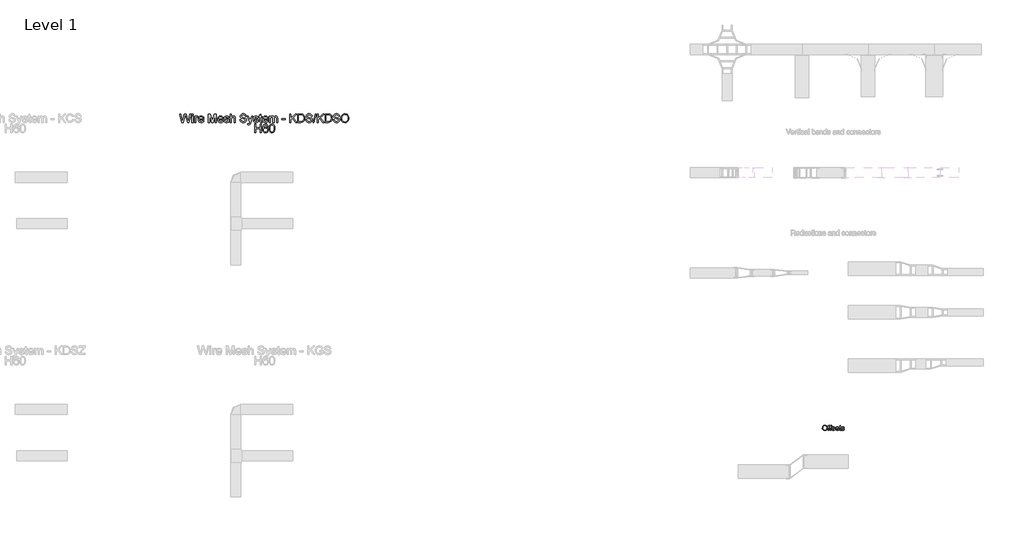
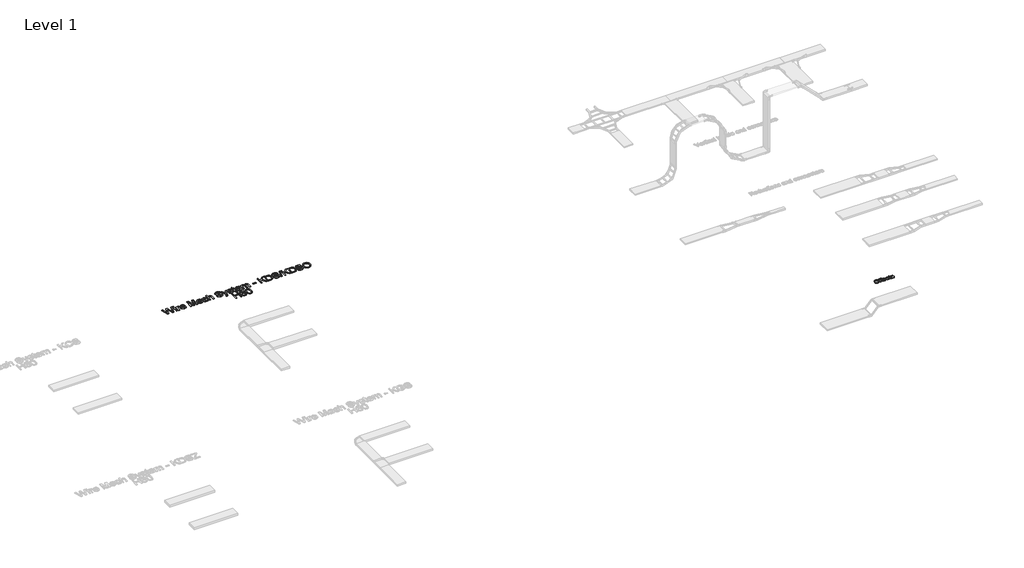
# One storey, part 56 of 106: 2 proxies.
"""IFC4 building model written with IfcOpenShell, lengths in millimetres."""

from ifc_helpers import new_model, si_unit, origin, origin_with_axes, place, context, project, spatial, polyline, outline, extrude, element, save

model = new_model("IFC4")

# Units and contexts
model_context = context("Model", 3, world=origin())
ifc_project = project(units=[si_unit("LENGTHUNIT", "METRE", prefix="MILLI")], contexts=[model_context])

# Site, building, storey
site = spatial("IfcSite", under=ifc_project)
building = spatial("IfcBuilding", under=site)
storey = spatial("IfcBuildingStorey", under=building, Name="Level 1", Elevation=0.0)

# Proxies
placement = place(None, origin())
element("IfcBuildingElementProxy", 1, Name="150mm Arial 2", ObjectType="150mm Arial 2", at=placement, inside=storey, context=model_context, shape_type="SweptSolid", body=[
    extrude(outline(polyline([(29692.661661, 48621.2033046), (29697.6832503, 48654.5242163), (29703.9602368, 48668.1427479), (29712.748018, 48679.7333301), (29735.7498397, 48695.5982411), (29764.5825911, 48700.8865448), (29784.3470513, 48698.4033413), (29802.0697664, 48690.9537309), (29816.7850462, 48679.0619454), (29827.5272005, 48663.2522167), (29834.0938941, 48644.2878998), (29836.282792, 48622.93235), (29833.978931, 48601.2916916), (29827.067348, 48582.0606603), (29815.9297206, 48566.2233404), (29800.9477263, 48554.7638163), (29783.3767625, 48547.8108466), (29764.4722265, 48545.49319), (29744.4042637, 48548.0545684), (29726.580381, 48555.7387036), (29711.9018894, 48567.8512183), (29701.2700997, 48583.6977352), (29694.8137707, 48601.9308866), (29692.661661, 48621.2033046)]), holes=[polyline([(29711.4972192, 48621.0193636), (29715.2634111, 48597.4473248), (29726.5619869, 48579.4854864), (29743.5443395, 48568.1179327), (29764.3618619, 48564.3287482), (29785.482887, 48568.1547209), (29802.4928307, 48579.6326392), (29813.708633, 48598.1463006), (29817.4472338, 48623.0795028), (29815.8469471, 48639.7537542), (29811.0460871, 48654.1655314), (29803.1688139, 48665.9515508), (29792.3392876, 48674.748529), (29779.2748783, 48680.2253722), (29764.6929557, 48682.0509866), (29744.4318548, 48678.533115), (29727.2057804, 48667.9795003), (29715.4243595, 48649.203723), (29711.4972192, 48621.0193636)])]), origin_with_axes(), (0.0, 0.0, 1.0), 15.0),
    extrude(outline(polyline([(29925.7516932, 48547.8476348), (29925.7516932, 48639.6709808), (29909.2705798, 48639.6709808), (29909.2705798, 48658.5065389), (29925.7516932, 48658.5065389), (29925.7516932, 48669.6533634), (29927.738256, 48685.3619246), (29937.3767642, 48696.5823254), (29956.3594752, 48700.8865448), (29973.5395644, 48698.8264056), (29970.7804494, 48681.1680698), (29959.9279305, 48682.0509866), (29948.0637362, 48678.9239897), (29944.5872513, 48667.2621304), (29944.5872513, 48658.5065389), (29965.7772543, 48658.5065389), (29965.7772543, 48639.6709808), (29944.5872513, 48639.6709808), (29944.5872513, 48547.8476348), (29925.7516932, 48547.8476348)])), origin_with_axes(), (0.0, 0.0, 1.0), 15.0),
    extrude(outline(polyline([(29864.5361292, 48547.8476348), (29864.5361292, 48639.6709808), (29848.0550158, 48639.6709808), (29848.0550158, 48658.5065389), (29864.5361292, 48658.5065389), (29864.5361292, 48669.6533634), (29866.522692, 48685.3619246), (29876.1612002, 48696.5823254), (29895.1439112, 48700.8865448), (29912.3240004, 48698.8264056), (29909.5648854, 48681.1680698), (29898.7123665, 48682.0509866), (29886.8481722, 48678.9239897), (29883.3716873, 48667.2621304), (29883.3716873, 48658.5065389), (29904.5616903, 48658.5065389), (29904.5616903, 48639.6709808), (29883.3716873, 48639.6709808), (29883.3716873, 48547.8476348), (29864.5361292, 48547.8476348)])), origin_with_axes(), (0.0, 0.0, 1.0), 15.0),
    extrude(outline(polyline([(29975.1950333, 48580.8098615), (29994.0305915, 48583.1643063), (29997.0012386, 48575.1076906), (30002.7493948, 48569.1847905), (30022.7253871, 48564.3287482), (30041.9288273, 48568.7801203), (30048.1828212, 48579.227969), (30046.6101257, 48584.028829), (30041.8920391, 48587.6892549), (30022.5046579, 48593.060332), (29994.1409561, 48602.275776), (29981.761727, 48613.0363243), (29977.5494781, 48628.2298507), (29980.9339925, 48642.2645488), (29990.1678305, 48652.988309), (30002.1423895, 48658.5617212), (30018.3475914, 48660.8609837), (30041.2666397, 48657.1637696), (30055.8347667, 48647.1573794), (30062.3094898, 48630.2532017), (30043.4739316, 48627.8987569), (30036.3922032, 48638.2914233), (30019.8191194, 48642.0254255), (30001.7929016, 48638.4569702), (29996.3850363, 48630.1428371), (29998.6291164, 48624.6613954), (30005.6556625, 48620.5043288), (30021.8792585, 48616.4944151), (30049.5255905, 48607.628459), (30062.3646721, 48597.5852805), (30067.0183793, 48581.2145317), (30061.5553317, 48563.188314), (30045.7915882, 48550.1101091), (30022.4678697, 48545.49319), (30003.4759617, 48547.7188761), (29989.6160076, 48554.3959343), (29980.3637754, 48565.4507882), (29975.1950333, 48580.8098615)])), origin_with_axes(), (0.0, 0.0, 1.0), 15.0),
    extrude(outline(polyline([(30165.6843304, 48580.8098615), (30184.1520066, 48578.4554168), (30177.497941, 48564.5402803), (30166.8799469, 48554.1384169), (30152.5371476, 48547.6544967), (30134.7086664, 48545.49319), (30112.6081556, 48549.2225937), (30095.6028104, 48560.4108049), (30084.7594886, 48578.3312566), (30081.145048, 48602.2573819), (30084.7962768, 48626.988249), (30095.7499632, 48645.4835163), (30112.5253821, 48657.0166168), (30133.6418087, 48660.8609837), (30154.1006461, 48657.0258139), (30170.4484023, 48645.5203045), (30181.1675639, 48627.0618254), (30184.7406178, 48602.3677465), (30184.6302532, 48597.2909749), (30099.9806061, 48597.2909749), (30103.2409603, 48583.1918975), (30110.8147309, 48572.8268223), (30121.7454246, 48566.4532667), (30135.0765484, 48564.3287482), (30153.5442246, 48568.2650855), (30165.6843304, 48580.8098615)]), holes=[polyline([(30099.9806061, 48616.1265331), (30165.9050596, 48616.1265331), (30163.3574768, 48626.0777411), (30158.3634787, 48633.1962577), (30147.3822012, 48639.8181336), (30133.5682323, 48642.0254255), (30120.8717049, 48640.2641905), (30110.3732725, 48634.9804853), (30103.0754134, 48626.7445272), (30099.9806061, 48616.1265331)])]), origin_with_axes(), (0.0, 0.0, 1.0), 15.0),
    extrude(outline(polyline([(30243.601737, 48563.556196), (30245.9561818, 48547.2958118), (30231.8663014, 48545.49319), (30216.0841638, 48548.620187), (30208.2114891, 48556.8239555), (30205.9306207, 48578.1978994), (30205.9306207, 48639.6709808), (30191.8039521, 48639.6709808), (30191.8039521, 48658.5065389), (30205.9306207, 48658.5065389), (30205.9306207, 48685.3987128), (30224.7661789, 48696.4719608), (30224.7661789, 48658.5065389), (30243.601737, 48658.5065389), (30243.601737, 48639.6709808), (30224.7661789, 48639.6709808), (30224.7661789, 48578.7497224), (30225.7594603, 48569.0376377), (30228.9784277, 48565.597941), (30235.3979685, 48564.3287482), (30243.601737, 48563.556196)])), origin_with_axes(), (0.0, 0.0, 1.0), 15.0),
    extrude(outline(polyline([(30255.3739609, 48580.8098615), (30274.209519, 48583.1643063), (30277.1801661, 48575.1076906), (30282.9283223, 48569.1847905), (30302.9043146, 48564.3287482), (30322.1077548, 48568.7801203), (30328.3617487, 48579.227969), (30326.7890532, 48584.028829), (30322.0709666, 48587.6892549), (30302.6835854, 48593.060332), (30274.3198836, 48602.275776), (30261.9406545, 48613.0363243), (30257.7284056, 48628.2298507), (30261.11292, 48642.2645488), (30270.3467581, 48652.988309), (30282.321317, 48658.5617212), (30298.5265189, 48660.8609837), (30321.4455672, 48657.1637696), (30336.0136942, 48647.1573794), (30342.4884173, 48630.2532017), (30323.6528592, 48627.8987569), (30316.5711308, 48638.2914233), (30299.9980469, 48642.0254255), (30281.9718291, 48638.4569702), (30276.5639638, 48630.1428371), (30278.808044, 48624.6613954), (30285.8345901, 48620.5043288), (30302.0581861, 48616.4944151), (30329.704518, 48607.628459), (30342.5435996, 48597.5852805), (30347.1973069, 48581.2145317), (30341.7342592, 48563.188314), (30325.9705157, 48550.1101091), (30302.6467972, 48545.49319), (30283.6548892, 48547.7188761), (30269.7949351, 48554.3959343), (30260.5427029, 48565.4507882), (30255.3739609, 48580.8098615)])), origin_with_axes(), (0.0, 0.0, 1.0), 15.0),
])
element("IfcBuildingElementProxy", 2, Name="250mm Arial 3", ObjectType="250mm Arial 3", at=placement, inside=storey, context=model_context, shape_type="SweptSolid", body=[
    extrude(outline(polyline([(10674.6936773, 57703.1379564), (10606.2063125, 57954.2787318), (10638.5799281, 57954.2787318), (10678.3111836, 57789.2223433), (10690.5739168, 57738.2706869), (10703.6950412, 57783.3362313), (10753.4817379, 57954.2787318), (10800.1414376, 57954.2787318), (10836.3165005, 57830.3638131), (10851.8135296, 57784.3785637), (10863.2331998, 57738.2706869), (10875.128051, 57787.7508153), (10915.2271885, 57954.2787318), (10947.600804, 57954.2787318), (10879.0521256, 57703.1379564), (10845.5135504, 57703.1379564), (10785.3035305, 57896.8891405), (10776.9035583, 57923.9284672), (10767.4612537, 57891.3709106), (10712.5855228, 57703.1379564), (10674.6936773, 57703.1379564)])), origin_with_axes(), (0.0, 0.0, 1.0), 15.0),
    extrude(outline(polyline([(10975.0693264, 57922.8861348), (10975.0693264, 57954.2787318), (11006.4619233, 57954.2787318), (11006.4619233, 57922.8861348), (10975.0693264, 57922.8861348)])), origin_with_axes(), (0.0, 0.0, 1.0), 15.0),
    extrude(outline(polyline([(10975.0693264, 57703.1379564), (10975.0693264, 57887.5694633), (11006.4619233, 57887.5694633), (11006.4619233, 57703.1379564), (10975.0693264, 57703.1379564)])), origin_with_axes(), (0.0, 0.0, 1.0), 15.0),
    extrude(outline(polyline([(11053.5508187, 57703.1379564), (11053.5508187, 57887.5694633), (11081.019341, 57887.5694633), (11081.019341, 57860.284882), (11091.1667527, 57876.1038078), (11100.5170867, 57885.423485), (11120.1374598, 57891.4935379), (11135.7724446, 57889.0716481), (11151.652684, 57881.8059787), (11141.1680472, 57853.6630061), (11119.0951275, 57860.100941), (11109.7218008, 57858.5527709), (11101.3448212, 57853.9082608), (11090.0324498, 57836.7404343), (11084.9434156, 57800.0748621), (11084.9434156, 57703.1379564), (11053.5508187, 57703.1379564)])), origin_with_axes(), (0.0, 0.0, 1.0), 15.0),
    extrude(outline(polyline([(11300.3996374, 57758.075001), (11331.1790977, 57754.1509264), (11320.0889884, 57730.9590323), (11302.3923316, 57713.6225933), (11278.4876661, 57702.8160597), (11248.7735308, 57699.2138818), (11229.2949455, 57700.7678), (11211.939346, 57705.4295547), (11196.7067321, 57713.1991458), (11183.597104, 57724.0765733), (11173.0549855, 57737.759101), (11165.5249009, 57753.9439928), (11161.0068502, 57772.6312485), (11159.5008333, 57793.8208682), (11161.0221786, 57815.7290074), (11165.5862146, 57835.0389801), (11173.1929413, 57851.7507861), (11183.8423586, 57865.8644256), (11196.9174979, 57877.0771622), (11211.8013903, 57885.0862598), (11228.4940358, 57889.8917184), (11246.9954345, 57891.4935379), (11264.9009409, 57889.8955505), (11281.0934969, 57885.1015883), (11295.5731023, 57877.1116512), (11308.3397572, 57865.9257393), (11318.7611643, 57851.8427566), (11326.2050265, 57835.1616074), (11330.6713439, 57815.8822916), (11332.1601163, 57794.0048092), (11331.9761753, 57785.5435233), (11190.8934302, 57785.5435233), (11196.3273538, 57762.0450609), (11208.9503048, 57744.7699355), (11227.1681278, 57734.1473429), (11249.3866674, 57730.6064787), (11266.0946414, 57732.2466193), (11280.1661277, 57737.1670409), (11291.6011264, 57745.6743121), (11300.3996374, 57758.075001)]), holes=[polyline([(11190.8934302, 57816.9361202), (11300.7675194, 57816.9361202), (11296.5215481, 57833.5214669), (11288.1982179, 57845.3856612), (11269.8960887, 57856.4221211), (11246.8728071, 57860.100941), (11225.7119282, 57857.1655493), (11208.2145408, 57848.359374), (11196.0514423, 57834.632777), (11190.8934302, 57816.9361202)])]), origin_with_axes(), (0.0, 0.0, 1.0), 15.0),
    extrude(outline(polyline([(11465.5786533, 57703.1379564), (11465.5786533, 57954.2787318), (11519.5959929, 57954.2787318), (11570.9768449, 57777.2661784), (11581.3388544, 57740.2940379), (11592.5592553, 57780.3318617), (11643.0817159, 57954.2787318), (11697.0990556, 57954.2787318), (11697.0990556, 57703.1379564), (11665.7064586, 57703.1379564), (11665.7064586, 57922.8861348), (11602.6146965, 57703.1379564), (11560.0630124, 57703.1379564), (11496.9712502, 57922.8861348), (11496.9712502, 57703.1379564), (11465.5786533, 57703.1379564)])), origin_with_axes(), (0.0, 0.0, 1.0), 15.0),
    extrude(outline(polyline([(11877.2386059, 57758.075001), (11908.0180661, 57754.1509264), (11896.9279568, 57730.9590323), (11879.2313, 57713.6225933), (11855.3266345, 57702.8160597), (11825.6124992, 57699.2138818), (11806.133914, 57700.7678), (11788.7783144, 57705.4295547), (11773.5457006, 57713.1991458), (11760.4360724, 57724.0765733), (11749.893954, 57737.759101), (11742.3638694, 57753.9439928), (11737.8458186, 57772.6312485), (11736.3398017, 57793.8208682), (11737.861147, 57815.7290074), (11742.425183, 57835.0389801), (11750.0319097, 57851.7507861), (11760.6813271, 57865.8644256), (11773.7564663, 57877.0771622), (11788.6403587, 57885.0862598), (11805.3330042, 57889.8917184), (11823.8344029, 57891.4935379), (11841.7399094, 57889.8955505), (11857.9324653, 57885.1015883), (11872.4120707, 57877.1116512), (11885.1787256, 57865.9257393), (11895.6001327, 57851.8427566), (11903.043995, 57835.1616074), (11907.5103123, 57815.8822916), (11908.9990848, 57794.0048092), (11908.8151438, 57785.5435233), (11767.7323986, 57785.5435233), (11773.1663223, 57762.0450609), (11785.7892732, 57744.7699355), (11804.0070962, 57734.1473429), (11826.2256359, 57730.6064787), (11842.9336098, 57732.2466193), (11857.0050961, 57737.1670409), (11868.4400948, 57745.6743121), (11877.2386059, 57758.075001)]), holes=[polyline([(11767.7323986, 57816.9361202), (11877.6064879, 57816.9361202), (11873.3605165, 57833.5214669), (11865.0371864, 57845.3856612), (11846.7350571, 57856.4221211), (11823.7117756, 57860.100941), (11802.5508966, 57857.1655493), (11785.0535092, 57848.359374), (11772.8904108, 57834.632777), (11767.7323986, 57816.9361202)])]), origin_with_axes(), (0.0, 0.0, 1.0), 15.0),
    extrude(outline(polyline([(11928.6194579, 57758.075001), (11960.0120548, 57761.9990756), (11964.9631333, 57748.5713828), (11974.5433936, 57738.6998826), (11988.8141493, 57732.6298297), (12007.8367141, 57730.6064787), (12026.6293527, 57732.4612171), (12039.8424477, 57738.0254323), (12047.6599401, 57746.0881793), (12050.2657709, 57755.4385134), (12047.6446117, 57763.4399468), (12039.7811341, 57769.5406565), (12007.4688322, 57778.4924517), (11960.1959958, 57793.851525), (11948.2321667, 57801.5693827), (11939.5639472, 57811.7857723), (11934.2986362, 57823.8492361), (11932.5435325, 57837.1083163), (11938.1843897, 57860.4994798), (11953.5741199, 57878.3724134), (11973.5317181, 57887.6614338), (12000.5403879, 57891.4935379), (12020.9731671, 57889.9530321), (12038.7388017, 57885.3315145), (12053.0248859, 57878.0811735), (12063.0190134, 57868.6541974), (12069.6408893, 57856.3531432), (12073.8102186, 57840.4805679), (12042.4176217, 57836.5564933), (12038.455226, 57846.4356577), (12030.614741, 57853.8776039), (12018.8195245, 57858.5451067), (12002.9929345, 57860.100941), (11984.9667168, 57858.6140846), (11972.9492383, 57854.1535154), (11966.1894066, 57847.7155805), (11963.9361294, 57840.2966269), (11967.676263, 57831.1608907), (11979.3871732, 57824.2324465), (12006.4264998, 57817.5492569), (12052.5037197, 57802.7726634), (12064.6744824, 57795.7062634), (12073.9021891, 57786.0340326), (12079.7193232, 57773.7253142), (12081.6583678, 57758.7494513), (12079.382098, 57743.2677507), (12072.5532885, 57728.7057551), (12061.4325223, 57716.2054314), (12046.2803826, 57706.9087468), (12027.9782534, 57701.137598), (12007.4075185, 57699.2138818), (11975.7543385, 57702.9233586), (11952.6544149, 57714.0517889), (11937.2340279, 57732.4765455), (11928.6194579, 57758.075001)])), origin_with_axes(), (0.0, 0.0, 1.0), 15.0),
    extrude(outline(polyline([(12116.9750394, 57703.1379564), (12116.9750394, 57954.2787318), (12148.3676363, 57954.2787318), (12148.3676363, 57861.940351), (12159.8984376, 57874.8698703), (12172.8471174, 57884.1052412), (12187.2136757, 57889.6464637), (12202.9981126, 57891.4935379), (12221.9593638, 57889.4778512), (12238.2534705, 57883.4307909), (12251.083355, 57873.8275379), (12259.6519398, 57861.1432733), (12264.480391, 57843.7148638), (12266.0898748, 57819.8791762), (12266.0898748, 57703.1379564), (12234.6972778, 57703.1379564), (12234.6972778, 57816.6295519), (12232.198746, 57836.2805818), (12224.7031503, 57849.7389315), (12212.6243581, 57857.5104386), (12196.3762367, 57860.100941), (12183.1094922, 57858.3535015), (12170.6551538, 57853.1111831), (12160.3391296, 57844.8798235), (12153.4873274, 57834.1652603), (12149.6475591, 57819.9251614), (12148.3676363, 57801.1171944), (12148.3676363, 57703.1379564), (12116.9750394, 57703.1379564)])), origin_with_axes(), (0.0, 0.0, 1.0), 15.0),
    extrude(outline(polyline([(12399.5084117, 57789.4675979), (12430.9010086, 57789.4675979), (12434.5031865, 57772.0468526), (12441.0177635, 57758.0443442), (12451.1805036, 57746.9312422), (12465.7271708, 57738.1787164), (12483.5081339, 57732.4995381), (12503.3737617, 57730.6064787), (12520.8634848, 57732.0396856), (12536.1765729, 57736.3393065), (12548.584926, 57743.1451234), (12557.3604444, 57752.0969186), (12562.5797703, 57762.3746218), (12564.3195455, 57773.1581628), (12559.1078839, 57792.7478791), (12551.1677642, 57800.4963936), (12537.7707282, 57807.0033064), (12492.0613903, 57818.990128), (12442.8571734, 57834.4718287), (12427.2298529, 57845.0331076), (12416.155072, 57857.8323354), (12409.5561887, 57872.5936004), (12407.3565609, 57889.0409913), (12410.0773548, 57907.4274268), (12418.2397366, 57924.5722607), (12431.6291084, 57939.1035995), (12450.0308724, 57949.64955), (12472.1191205, 57956.0644923), (12496.5679447, 57958.2028064), (12523.0554484, 57955.9648576), (12546.2320141, 57949.2510112), (12565.2699073, 57938.1992229), (12579.3413937, 57922.9474485), (12588.2472036, 57904.4460498), (12591.7880678, 57883.6453887), (12560.3954709, 57883.6453887), (12554.6319863, 57902.3767136), (12542.6145078, 57915.8963769), (12523.8371976, 57924.0817513), (12497.7942181, 57926.8102095), (12471.1381018, 57924.1124082), (12452.851301, 57916.0190043), (12442.2746936, 57904.1088247), (12438.7491578, 57889.9606963), (12441.2476897, 57877.8972325), (12448.7432854, 57868.1943449), (12466.4629348, 57859.5184612), (12500.00151, 57850.6586365), (12555.5516913, 57834.9010243), (12573.4476175, 57823.5120109), (12585.9326127, 57809.455853), (12593.26726, 57792.8858348), (12595.7121424, 57773.9552405), (12592.899378, 57754.6031147), (12584.4610848, 57736.4006201), (12570.742152, 57720.7349785), (12552.0874692, 57708.9934115), (12529.6543317, 57701.6587642), (12504.600035, 57699.2138818), (12473.8435673, 57701.8503694), (12448.5286875, 57709.7598323), (12428.3641557, 57722.9729273), (12413.0587318, 57741.5203112), (12403.2332169, 57764.1143971), (12399.5084117, 57789.4675979)])), origin_with_axes(), (0.0, 0.0, 1.0), 15.0),
    extrude(outline(polyline([(12638.8769632, 57632.5046133), (12634.9528886, 57662.7322506), (12650.8944417, 57659.9731356), (12665.7936625, 57663.4373577), (12674.9293987, 57673.0942601), (12683.513312, 57696.2095122), (12685.9658586, 57703.8124067), (12619.2565901, 57887.5694633), (12652.3659697, 57887.5694633), (12687.7439549, 57785.1756413), (12700.0680017, 57744.2181125), (12712.3920486, 57780.3931754), (12748.7510524, 57887.5694633), (12781.6151773, 57887.5694633), (12717.4197692, 57698.7233725), (12700.7424521, 57657.7658437), (12692.2045241, 57644.6907044), (12682.5322933, 57635.6316103), (12671.296564, 57630.3433066), (12658.0681406, 57628.5805387), (12638.8769632, 57632.5046133)])), origin_with_axes(), (0.0, 0.0, 1.0), 15.0),
    extrude(outline(polyline([(12795.8399478, 57758.075001), (12827.2325447, 57761.9990756), (12832.1836233, 57748.5713828), (12841.7638835, 57738.6998826), (12856.0346393, 57732.6298297), (12875.0572041, 57730.6064787), (12893.8498427, 57732.4612171), (12907.0629377, 57738.0254323), (12914.8804301, 57746.0881793), (12917.4862609, 57755.4385134), (12914.8651017, 57763.4399468), (12907.001624, 57769.5406565), (12874.6893221, 57778.4924517), (12827.4164857, 57793.851525), (12815.4526567, 57801.5693827), (12806.7844372, 57811.7857723), (12801.5191261, 57823.8492361), (12799.7640224, 57837.1083163), (12805.4048797, 57860.4994798), (12820.7946098, 57878.3724134), (12840.7522081, 57887.6614338), (12867.7608779, 57891.4935379), (12888.193657, 57889.9530321), (12905.9592917, 57885.3315145), (12920.2453759, 57878.0811735), (12930.2395034, 57868.6541974), (12936.8613793, 57856.3531432), (12941.0307086, 57840.4805679), (12909.6381117, 57836.5564933), (12905.675716, 57846.4356577), (12897.835231, 57853.8776039), (12886.0400145, 57858.5451067), (12870.2134245, 57860.100941), (12852.1872067, 57858.6140846), (12840.1697282, 57854.1535154), (12833.4098966, 57847.7155805), (12831.1566194, 57840.2966269), (12834.896753, 57831.1608907), (12846.6076632, 57824.2324465), (12873.6469898, 57817.5492569), (12919.7242097, 57802.7726634), (12931.8949724, 57795.7062634), (12941.1226791, 57786.0340326), (12946.9398131, 57773.7253142), (12948.8788578, 57758.7494513), (12946.602588, 57743.2677507), (12939.7737784, 57728.7057551), (12928.6530123, 57716.2054314), (12913.5008726, 57706.9087468), (12895.1987433, 57701.137598), (12874.6280085, 57699.2138818), (12842.9748284, 57702.9233586), (12819.8749048, 57714.0517889), (12804.4545179, 57732.4765455), (12795.8399478, 57758.075001)])), origin_with_axes(), (0.0, 0.0, 1.0), 15.0),
    extrude(outline(polyline([(13050.9047978, 57729.3188917), (13054.8288724, 57702.2182514), (13031.3457384, 57699.2138818), (13016.277905, 57700.5167972), (13005.0421757, 57704.4255434), (12991.9210512, 57718.0984909), (12988.119604, 57753.7217307), (12988.119604, 57856.1768664), (12964.5751563, 57856.1768664), (12964.5751563, 57887.5694633), (12988.119604, 57887.5694633), (12988.119604, 57932.3897531), (13019.5122009, 57950.8451665), (13019.5122009, 57887.5694633), (13050.9047978, 57887.5694633), (13050.9047978, 57856.1768664), (13019.5122009, 57856.1768664), (13019.5122009, 57754.6414357), (13021.1676699, 57738.4546279), (13026.5326156, 57732.7218002), (13037.2318503, 57730.6064787), (13050.9047978, 57729.3188917)])), origin_with_axes(), (0.0, 0.0, 1.0), 15.0),
    extrude(outline(polyline([(13211.423975, 57758.075001), (13242.2034353, 57754.1509264), (13231.113326, 57730.9590323), (13213.4166692, 57713.6225933), (13189.5120037, 57702.8160597), (13159.7978684, 57699.2138818), (13140.3192832, 57700.7678), (13122.9636836, 57705.4295547), (13107.7310697, 57713.1991458), (13094.6214416, 57724.0765733), (13084.0793231, 57737.759101), (13076.5492386, 57753.9439928), (13072.0311878, 57772.6312485), (13070.5251709, 57793.8208682), (13072.0465162, 57815.7290074), (13076.6105522, 57835.0389801), (13084.2172789, 57851.7507861), (13094.8666962, 57865.8644256), (13107.9418355, 57877.0771622), (13122.8257279, 57885.0862598), (13139.5183734, 57889.8917184), (13158.0197721, 57891.4935379), (13175.9252786, 57889.8955505), (13192.1178345, 57885.1015883), (13206.5974399, 57877.1116512), (13219.3640948, 57865.9257393), (13229.7855019, 57851.8427566), (13237.2293642, 57835.1616074), (13241.6956815, 57815.8822916), (13243.184454, 57794.0048092), (13243.000513, 57785.5435233), (13101.9177678, 57785.5435233), (13107.3516914, 57762.0450609), (13119.9746424, 57744.7699355), (13138.1924654, 57734.1473429), (13160.411005, 57730.6064787), (13177.118979, 57732.2466193), (13191.1904653, 57737.1670409), (13202.625464, 57745.6743121), (13211.423975, 57758.075001)]), holes=[polyline([(13101.9177678, 57816.9361202), (13211.791857, 57816.9361202), (13207.5458857, 57833.5214669), (13199.2225555, 57845.3856612), (13180.9204263, 57856.4221211), (13157.8971447, 57860.100941), (13136.7362658, 57857.1655493), (13119.2388784, 57848.359374), (13107.0757799, 57834.632777), (13101.9177678, 57816.9361202)])]), origin_with_axes(), (0.0, 0.0, 1.0), 15.0),
    extrude(outline(polyline([(13274.5770509, 57703.1379564), (13274.5770509, 57887.5694633), (13305.9696478, 57887.5694633), (13305.9696478, 57857.2191987), (13315.4119523, 57871.1603935), (13327.5520582, 57882.0818902), (13341.9760981, 57889.140626), (13358.2702048, 57891.4935379), (13375.7292711, 57889.0946407), (13389.7241154, 57881.8979492), (13400.1780954, 57870.3786442), (13407.0145691, 57855.0119067), (13418.457232, 57870.9726204), (13431.5093787, 57882.3731301), (13446.171009, 57889.213436), (13462.4421231, 57891.4935379), (13486.0402202, 57887.6997549), (13503.4916224, 57876.3184056), (13514.2751634, 57857.0429219), (13517.869677, 57829.5667354), (13517.869677, 57703.1379564), (13486.4770801, 57703.1379564), (13486.4770801, 57816.0777289), (13483.564681, 57842.2893211), (13473.0187304, 57855.1958477), (13455.0844832, 57860.100941), (13438.0776051, 57856.9586156), (13424.2130524, 57847.5316395), (13414.9930099, 57831.1762191), (13411.9196624, 57807.248561), (13411.9196624, 57703.1379564), (13380.5270655, 57703.1379564), (13380.5270655, 57819.5726079), (13378.7106481, 57837.3229141), (13373.2613961, 57849.9841861), (13363.6734716, 57857.5717523), (13349.4410369, 57860.100941), (13337.3469163, 57858.4148152), (13326.2031575, 57853.3564378), (13317.0061077, 57845.048436), (13310.7521137, 57833.6134374), (13305.9696478, 57796.1507875), (13305.9696478, 57703.1379564), (13274.5770509, 57703.1379564)])), origin_with_axes(), (0.0, 0.0, 1.0), 15.0),
    extrude(outline(polyline([(13647.3641393, 57777.6953741), (13647.3641393, 57809.087971), (13745.4660047, 57809.087971), (13745.4660047, 57777.6953741), (13647.3641393, 57777.6953741)])), origin_with_axes(), (0.0, 0.0, 1.0), 15.0),
    extrude(outline(polyline([(13882.8086162, 57703.1379564), (13882.8086162, 57954.2787318), (13914.2012132, 57954.2787318), (13914.2012132, 57831.3448317), (14042.9599115, 57954.2787318), (14086.8604962, 57954.2787318), (13978.7645033, 57851.0265185), (14090.7845708, 57703.1379564), (14052.402216, 57703.1379564), (13956.5076426, 57829.8119901), (13914.2012132, 57789.4675979), (13914.2012132, 57703.1379564), (13882.8086162, 57703.1379564)])), origin_with_axes(), (0.0, 0.0, 1.0), 15.0),
    extrude(outline(polyline([(14114.3290185, 57703.1379564), (14114.3290185, 57954.2787318), (14200.9652284, 57954.2787318), (14245.7855181, 57950.6612255), (14265.80443, 57943.686796), (14282.696345, 57932.6963214), (14300.0634408, 57913.5664576), (14312.4334729, 57889.7767553), (14319.8370981, 57861.7870668), (14322.3049731, 57830.0572447), (14320.6341757, 57803.1022244), (14315.6217836, 57779.3814999), (14307.9882322, 57759.1863112), (14298.4539571, 57742.8078982), (14275.5226461, 57720.0298713), (14245.5096066, 57707.429913), (14205.1345577, 57703.1379564), (14114.3290185, 57703.1379564)]), holes=[polyline([(14145.7216155, 57734.5305533), (14201.2717967, 57734.5305533), (14241.6775025, 57739.0677646), (14264.9766956, 57751.8823208), (14275.8828639, 57765.470962), (14284.0759025, 57783.0603198), (14289.2032578, 57804.7270365), (14290.9123762, 57830.5477541), (14287.5631172, 57864.7607796), (14277.5153402, 57890.0220099), (14262.6697689, 57907.3737774), (14244.9271268, 57917.8584142), (14226.8702522, 57921.6292047), (14200.4134054, 57922.8861348), (14145.7216155, 57922.8861348), (14145.7216155, 57734.5305533)])]), origin_with_axes(), (0.0, 0.0, 1.0), 15.0),
    extrude(outline(polyline([(14353.6975701, 57789.4675979), (14385.090167, 57789.4675979), (14388.6923449, 57772.0468526), (14395.2069218, 57758.0443442), (14405.369662, 57746.9312422), (14419.9163292, 57738.1787164), (14437.6972923, 57732.4995381), (14457.56292, 57730.6064787), (14475.0526432, 57732.0396856), (14490.3657313, 57736.3393065), (14502.7740844, 57743.1451234), (14511.5496028, 57752.0969186), (14516.7689286, 57762.3746218), (14518.5087039, 57773.1581628), (14513.2970423, 57792.7478791), (14505.3569226, 57800.4963936), (14491.9598866, 57807.0033064), (14446.2505487, 57818.990128), (14397.0463318, 57834.4718287), (14381.4190112, 57845.0331076), (14370.3442303, 57857.8323354), (14363.7453471, 57872.5936004), (14361.5457193, 57889.0409913), (14364.2665132, 57907.4274268), (14372.428895, 57924.5722607), (14385.8182668, 57939.1035995), (14404.2200307, 57949.64955), (14426.3082789, 57956.0644923), (14450.7571031, 57958.2028064), (14477.2446068, 57955.9648576), (14500.4211725, 57949.2510112), (14519.4590657, 57938.1992229), (14533.530552, 57922.9474485), (14542.436362, 57904.4460498), (14545.9772262, 57883.6453887), (14514.5846293, 57883.6453887), (14508.8211447, 57902.3767136), (14496.8036662, 57915.8963769), (14478.026356, 57924.0817513), (14451.9833764, 57926.8102095), (14425.3272602, 57924.1124082), (14407.0404594, 57916.0190043), (14396.463852, 57904.1088247), (14392.9383162, 57889.9606963), (14395.4368481, 57877.8972325), (14402.9324437, 57868.1943449), (14420.6520932, 57859.5184612), (14454.1906684, 57850.6586365), (14509.7408497, 57834.9010243), (14527.6367759, 57823.5120109), (14540.1217711, 57809.455853), (14547.4564184, 57792.8858348), (14549.9013008, 57773.9552405), (14547.0885364, 57754.6031147), (14538.6502431, 57736.4006201), (14524.9313104, 57720.7349785), (14506.2766276, 57708.9934115), (14483.8434901, 57701.6587642), (14458.7891933, 57699.2138818), (14428.0327257, 57701.8503694), (14402.7178459, 57709.7598323), (14382.5533141, 57722.9729273), (14367.2478902, 57741.5203112), (14357.4223753, 57764.1143971), (14353.6975701, 57789.4675979)])), origin_with_axes(), (0.0, 0.0, 1.0), 15.0),
    extrude(outline(polyline([(14569.5216739, 57703.1379564), (14640.155017, 57954.2787318), (14668.4819306, 57954.2787318), (14597.8485875, 57703.1379564), (14569.5216739, 57703.1379564)])), origin_with_axes(), (0.0, 0.0, 1.0), 15.0),
    extrude(outline(polyline([(14695.0920616, 57703.1379564), (14695.0920616, 57954.2787318), (14726.4846585, 57954.2787318), (14726.4846585, 57831.3448317), (14855.2433568, 57954.2787318), (14899.1439416, 57954.2787318), (14791.0479487, 57851.0265185), (14903.0680162, 57703.1379564), (14864.6856614, 57703.1379564), (14768.791088, 57829.8119901), (14726.4846585, 57789.4675979), (14726.4846585, 57703.1379564), (14695.0920616, 57703.1379564)])), origin_with_axes(), (0.0, 0.0, 1.0), 15.0),
    extrude(outline(polyline([(14926.6124639, 57703.1379564), (14926.6124639, 57954.2787318), (15013.2486737, 57954.2787318), (15058.0689635, 57950.6612255), (15078.0878754, 57943.686796), (15094.9797903, 57932.6963214), (15112.3468862, 57913.5664576), (15124.7169183, 57889.7767553), (15132.1205434, 57861.7870668), (15134.5884185, 57830.0572447), (15132.9176211, 57803.1022244), (15127.9052289, 57779.3814999), (15120.2716775, 57759.1863112), (15110.7374025, 57742.8078982), (15087.8060914, 57720.0298713), (15057.793052, 57707.429913), (15017.418003, 57703.1379564), (14926.6124639, 57703.1379564)]), holes=[polyline([(14958.0050608, 57734.5305533), (15013.5552421, 57734.5305533), (15053.9609479, 57739.0677646), (15077.2601409, 57751.8823208), (15088.1663092, 57765.470962), (15096.3593478, 57783.0603198), (15101.4867031, 57804.7270365), (15103.1958216, 57830.5477541), (15099.8465626, 57864.7607796), (15089.7987856, 57890.0220099), (15074.9532142, 57907.3737774), (15057.2105722, 57917.8584142), (15039.1536976, 57921.6292047), (15012.6968508, 57922.8861348), (14958.0050608, 57922.8861348), (14958.0050608, 57734.5305533)])]), origin_with_axes(), (0.0, 0.0, 1.0), 15.0),
    extrude(outline(polyline([(15165.9810154, 57789.4675979), (15197.3736123, 57789.4675979), (15200.9757902, 57772.0468526), (15207.4903672, 57758.0443442), (15217.6531073, 57746.9312422), (15232.1997745, 57738.1787164), (15249.9807376, 57732.4995381), (15269.8463654, 57730.6064787), (15287.3360886, 57732.0396856), (15302.6491766, 57736.3393065), (15315.0575297, 57743.1451234), (15323.8330482, 57752.0969186), (15329.052374, 57762.3746218), (15330.7921492, 57773.1581628), (15325.5804877, 57792.7478791), (15317.6403679, 57800.4963936), (15304.2433319, 57807.0033064), (15258.533994, 57818.990128), (15209.3297772, 57834.4718287), (15193.7024566, 57845.0331076), (15182.6276757, 57857.8323354), (15176.0287924, 57872.5936004), (15173.8291646, 57889.0409913), (15176.5499586, 57907.4274268), (15184.7123403, 57924.5722607), (15198.1017121, 57939.1035995), (15216.5034761, 57949.64955), (15238.5917242, 57956.0644923), (15263.0405485, 57958.2028064), (15289.5280521, 57955.9648576), (15312.7046178, 57949.2510112), (15331.7425111, 57938.1992229), (15345.8139974, 57922.9474485), (15354.7198074, 57904.4460498), (15358.2606716, 57883.6453887), (15326.8680746, 57883.6453887), (15321.10459, 57902.3767136), (15309.0871115, 57915.8963769), (15290.3098014, 57924.0817513), (15264.2668218, 57926.8102095), (15237.6107056, 57924.1124082), (15219.3239047, 57916.0190043), (15208.7472973, 57904.1088247), (15205.2217616, 57889.9606963), (15207.7202934, 57877.8972325), (15215.2158891, 57868.1943449), (15232.9355385, 57859.5184612), (15266.4741138, 57850.6586365), (15322.024295, 57834.9010243), (15339.9202213, 57823.5120109), (15352.4052165, 57809.455853), (15359.7398637, 57792.8858348), (15362.1847462, 57773.9552405), (15359.3719817, 57754.6031147), (15350.9336885, 57736.4006201), (15337.2147557, 57720.7349785), (15318.5600729, 57708.9934115), (15296.1269354, 57701.6587642), (15271.0726387, 57699.2138818), (15240.3161711, 57701.8503694), (15215.0012913, 57709.7598323), (15194.8367594, 57722.9729273), (15179.5313356, 57741.5203112), (15169.7058206, 57764.1143971), (15165.9810154, 57789.4675979)])), origin_with_axes(), (0.0, 0.0, 1.0), 15.0),
    extrude(outline(polyline([(15397.5014177, 57825.3974061), (15399.5937466, 57854.8547905), (15405.8707331, 57880.932259), (15416.3323773, 57903.6298117), (15430.9786793, 57922.9474485), (15448.9320871, 57938.3716676), (15469.3150488, 57949.3889669), (15492.1275647, 57955.9993465), (15517.3696345, 57958.2028064), (15550.3104015, 57954.0641339), (15579.84826, 57941.6481166), (15604.3737263, 57921.8284741), (15622.2773168, 57895.4789262), (15633.2218061, 57863.8717315), (15636.8699692, 57828.2791484), (15633.0302009, 57792.2113845), (15621.5108959, 57760.1596656), (15602.9481836, 57733.7641325), (15577.9781932, 57714.6649256), (15548.6932535, 57703.0766427), (15517.1856935, 57699.2138818), (15483.7390887, 57703.4828458), (15454.0326176, 57716.2897377), (15429.568465, 57736.4772622), (15411.8488155, 57762.8881238), (15401.0882672, 57793.2767094), (15397.5014177, 57825.3974061)]), holes=[polyline([(15428.8940146, 57825.0908378), (15430.4632613, 57804.2786803), (15435.1710012, 57785.8041064), (15443.0172344, 57769.667116), (15454.0019608, 57755.867709), (15467.3549276, 57744.8159208), (15482.3058818, 57736.9217863), (15498.8548234, 57732.1853056), (15517.0017525, 57730.6064787), (15535.459082, 57732.200634), (15552.2034609, 57736.9831), (15567.2348893, 57744.9538765), (15580.5533671, 57756.1129637), (15591.4576194, 57770.2036105), (15599.246371, 57786.969066), (15603.919622, 57806.4093302), (15605.4773723, 57828.5244031), (15602.8102278, 57856.3148221), (15594.8087945, 57880.3344507), (15581.6800058, 57899.9778164), (15563.6307954, 57914.6394468), (15541.8567798, 57923.7675188), (15517.5535755, 57926.8102095), (15483.785074, 57920.9470902), (15455.07495, 57903.3577323), (15443.6207907, 57889.6713724), (15435.4392485, 57872.0647701), (15430.5303231, 57850.5379252), (15428.8940146, 57825.0908378)])]), origin_with_axes(), (0.0, 0.0, 1.0), 15.0),
    extrude(outline(polyline([(12837.0427313, 57398.2009118), (12837.0427313, 57649.3416872), (12868.4353282, 57649.3416872), (12868.4353282, 57547.3157472), (13001.8538651, 57547.3157472), (13001.8538651, 57649.3416872), (13033.246462, 57649.3416872), (13033.246462, 57398.2009118), (13001.8538651, 57398.2009118), (13001.8538651, 57515.9231502), (12868.4353282, 57515.9231502), (12868.4353282, 57398.2009118), (12837.0427313, 57398.2009118)])), origin_with_axes(), (0.0, 0.0, 1.0), 15.0),
    extrude(outline(polyline([(13237.298342, 57582.6324187), (13205.9057451, 57578.7083441), (13200.8473677, 57594.2666868), (13194.0108939, 57604.8892794), (13179.770795, 57614.6841375), (13162.5569833, 57617.9490902), (13147.9643309, 57616.0483666), (13134.2300697, 57610.3461957), (13122.4348532, 57598.3363814), (13112.8009435, 57581.8046842), (13106.2940307, 57558.4211849), (13103.8798051, 57525.8559641), (13116.4720992, 57540.5482513), (13131.5629252, 57550.9025966), (13148.3092202, 57557.0416274), (13165.8679213, 57559.087971), (13194.8692853, 57553.493099), (13219.2108106, 57536.708483), (13228.8408882, 57524.7025008), (13235.7195151, 57511.0640422), (13241.2224166, 57478.8896961), (13238.6319143, 57456.4105733), (13230.8604071, 57435.5715911), (13218.5516887, 57417.8979269), (13202.3495525, 57404.9147582), (13182.9897625, 57396.9363174), (13161.2080827, 57394.2768372), (13142.4940022, 57396.0396051), (13125.592507, 57401.3279087), (13110.5035971, 57410.1417482), (13097.2272724, 57422.4811235), (13086.4034943, 57438.8672007), (13078.6722242, 57459.821146), (13074.0334622, 57485.3429594), (13072.4872082, 57515.4326409), (13074.2039908, 57549.1666534), (13079.3543388, 57577.9572517), (13087.938252, 57601.8044356), (13099.9557305, 57620.7082052), (13112.9810524, 57633.2353536), (13128.0833747, 57642.1833167), (13145.2626975, 57647.5520945), (13164.5190207, 57649.3416872), (13192.064185, 57644.9117748), (13214.1217763, 57631.6220377), (13229.5728201, 57610.5148082), (13237.298342, 57582.6324187)]), holes=[polyline([(13103.8798051, 57479.3802054), (13105.6962225, 57465.4696674), (13111.1454745, 57452.1875946), (13119.6067604, 57440.7679243), (13130.4592793, 57432.4445942), (13143.5574111, 57427.3632241), (13158.7555361, 57425.6694341), (13179.4718909, 57429.1796415), (13195.7583334, 57439.7102636), (13206.3119481, 57456.2649534), (13209.8298197, 57477.8473637), (13206.3579334, 57498.5637186), (13195.9422744, 57514.3596518), (13179.3799204, 57524.3614435), (13157.4679491, 57527.6953741), (13136.7822511, 57524.3614435), (13119.4841331, 57514.3596518), (13107.7808871, 57498.946929), (13103.8798051, 57479.3802054)])]), origin_with_axes(), (0.0, 0.0, 1.0), 15.0),
    extrude(outline(polyline([(13268.690939, 57521.7479485), (13270.9978656, 57561.9467207), (13277.9186457, 57594.0061037), (13289.3843012, 57618.4166069), (13305.3258543, 57635.6687397), (13325.8582682, 57645.9234503), (13351.0965059, 57649.3416872), (13370.4409675, 57647.3183362), (13387.7620781, 57641.2482833), (13402.2474316, 57631.3691189), (13413.0846221, 57617.9184334), (13427.7999019, 57580.7623519), (13432.0765301, 57555.0489333), (13433.5020728, 57521.7479485), (13431.2181387, 57481.7791026), (13424.3663366, 57449.7963616), (13412.9696589, 57425.3628658), (13397.0510984, 57408.0417552), (13376.4726993, 57397.7180667), (13351.0965059, 57394.2768372), (13333.8060521, 57395.7713578), (13318.4776356, 57400.2549196), (13305.1112565, 57407.7275226), (13293.7069146, 57418.1891669), (13282.7624253, 57437.1006007), (13274.9449329, 57460.6642089), (13270.2544374, 57488.8799915), (13268.690939, 57521.7479485)]), holes=[polyline([(13300.0835359, 57521.8092622), (13303.7623558, 57472.4287685), (13308.3608808, 57455.5387696), (13314.7988157, 57443.848936), (13331.2308781, 57430.2143096), (13351.0965059, 57425.6694341), (13370.9621336, 57430.229638), (13387.3941961, 57443.9102497), (13393.832131, 57455.6192438), (13398.4306559, 57472.5054106), (13402.1094759, 57521.8092622), (13398.5532832, 57570.0784456), (13394.1080425, 57586.912879), (13387.8847054, 57598.8805402), (13371.4832998, 57613.1819527), (13350.7286239, 57617.9490902), (13331.077594, 57613.7491041), (13315.289325, 57601.1491458), (13308.6367923, 57588.1199918), (13303.8849832, 57570.5536265), (13300.0835359, 57521.8092622)])]), origin_with_axes(), (0.0, 0.0, 1.0), 15.0),
])

save(model, "model.ifc")
